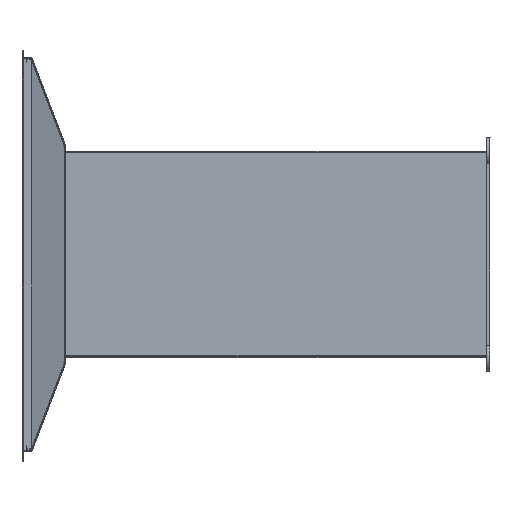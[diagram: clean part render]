
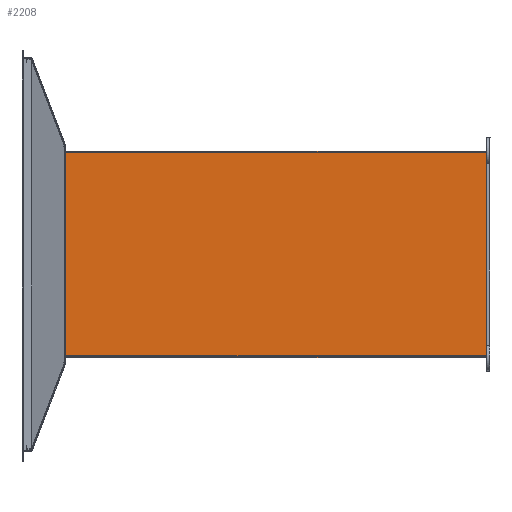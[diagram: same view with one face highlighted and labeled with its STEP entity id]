
A CAD part, left-side view. The second image highlights one B-rep face of the part: STEP entity #2208.
In plain terms, the highlighted planar face has unit normal (-1, 0, 0).
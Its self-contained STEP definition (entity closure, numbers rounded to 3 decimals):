
#178 = B_SPLINE_CURVE_WITH_KNOTS ( 'NONE', 3,
 ( #11979, #5204, #9008, #7020, #11005, #7083 ),
 .UNSPECIFIED., .F., .F.,
 ( 4, 2, 4 ),
 ( 0., 0.001, 0.003 ),
 .UNSPECIFIED. ) ;
#389 = VECTOR ( 'NONE', #6831, 1000. ) ;
#413 = ORIENTED_EDGE ( 'NONE', *, *, #9740, .F. ) ;
#476 = LINE ( 'NONE', #3443, #6617 ) ;
#731 = CARTESIAN_POINT ( 'NONE',  ( -449., 14., 167.5 ) ) ;
#832 = VERTEX_POINT ( 'NONE', #8082 ) ;
#891 = AXIS2_PLACEMENT_3D ( 'NONE', #1579, #5700, #9624 ) ;
#921 = CARTESIAN_POINT ( 'NONE',  ( -449., 11.5, 152.386 ) ) ;
#1021 = CARTESIAN_POINT ( 'NONE',  ( -449., 11.5, 0. ) ) ;
#1074 = EDGE_CURVE ( 'NONE', #11111, #11092, #3364, .T. ) ;
#1451 = CARTESIAN_POINT ( 'NONE',  ( -449., 12.75, 170. ) ) ;
#1500 = DIRECTION ( 'NONE',  ( 0., 0., -1. ) ) ;
#1579 = CARTESIAN_POINT ( 'NONE',  ( -449., -1.3, 0. ) ) ;
#1629 = EDGE_LOOP ( 'NONE', ( #5316, #413, #2324, #9046, #5806, #8990, #1734, #3246, #5178, #6841 ) ) ;
#1636 = VECTOR ( 'NONE', #10024, 1000. ) ;
#1734 = ORIENTED_EDGE ( 'NONE', *, *, #10499, .F. ) ;
#1764 = PLANE ( 'NONE',  #891 ) ;
#1796 = B_SPLINE_CURVE_WITH_KNOTS ( 'NONE', 3,
 ( #731, #4661, #12531, #3698, #5945, #6982 ),
 .UNSPECIFIED., .F., .F.,
 ( 4, 2, 4 ),
 ( 0., 0.001, 0.003 ),
 .UNSPECIFIED. ) ;
#1980 = CARTESIAN_POINT ( 'NONE',  ( -449., 12.75, -170. ) ) ;
#2113 = LINE ( 'NONE', #9780, #389 ) ;
#2163 = LINE ( 'NONE', #6102, #1636 ) ;
#2208 = ADVANCED_FACE ( 'NONE', ( #10593 ), #1764, .F. ) ;
#2324 = ORIENTED_EDGE ( 'NONE', *, *, #2738, .F. ) ;
#2738 = EDGE_CURVE ( 'NONE', #9263, #6857, #178, .T. ) ;
#3128 = DIRECTION ( 'NONE',  ( 0., 0., -1. ) ) ;
#3246 = ORIENTED_EDGE ( 'NONE', *, *, #12473, .F. ) ;
#3364 = LINE ( 'NONE', #8472, #6576 ) ;
#3443 = CARTESIAN_POINT ( 'NONE',  ( -449., 5.725, 167.5 ) ) ;
#3698 = CARTESIAN_POINT ( 'NONE',  ( -449., 13.072, 169.119 ) ) ;
#4661 = CARTESIAN_POINT ( 'NONE',  ( -449., 13.748, 167.895 ) ) ;
#4887 = EDGE_CURVE ( 'NONE', #10913, #10912, #1796, .T. ) ;
#4954 = DIRECTION ( 'NONE',  ( 0., 0., -1. ) ) ;
#5106 = VERTEX_POINT ( 'NONE', #10968 ) ;
#5178 = ORIENTED_EDGE ( 'NONE', *, *, #4887, .T. ) ;
#5193 = CARTESIAN_POINT ( 'NONE',  ( -449., 11.5, 0. ) ) ;
#5204 = CARTESIAN_POINT ( 'NONE',  ( -449., 13.748, -167.895 ) ) ;
#5316 = ORIENTED_EDGE ( 'NONE', *, *, #12312, .F. ) ;
#5385 = CARTESIAN_POINT ( 'NONE',  ( -449., 14., 167.5 ) ) ;
#5641 = LINE ( 'NONE', #9569, #5963 ) ;
#5700 = DIRECTION ( 'NONE',  ( 1., 0., 0. ) ) ;
#5755 = CARTESIAN_POINT ( 'NONE',  ( -449., 11.5, -167.5 ) ) ;
#5806 = ORIENTED_EDGE ( 'NONE', *, *, #1074, .F. ) ;
#5945 = CARTESIAN_POINT ( 'NONE',  ( -449., 12.893, 169.551 ) ) ;
#5963 = VECTOR ( 'NONE', #9628, 1000. ) ;
#6049 = LINE ( 'NONE', #1021, #10483 ) ;
#6098 = LINE ( 'NONE', #5193, #10322 ) ;
#6102 = CARTESIAN_POINT ( 'NONE',  ( -449., 5.1, -167.5 ) ) ;
#6229 = LINE ( 'NONE', #8155, #6810 ) ;
#6576 = VECTOR ( 'NONE', #1500, 1000. ) ;
#6617 = VECTOR ( 'NONE', #7389, 1000. ) ;
#6810 = VECTOR ( 'NONE', #9057, 1000. ) ;
#6831 = DIRECTION ( 'NONE',  ( 0., -1., 0. ) ) ;
#6841 = ORIENTED_EDGE ( 'NONE', *, *, #10429, .F. ) ;
#6857 = VERTEX_POINT ( 'NONE', #1980 ) ;
#6982 = CARTESIAN_POINT ( 'NONE',  ( -449., 12.75, 170. ) ) ;
#7020 = CARTESIAN_POINT ( 'NONE',  ( -449., 13.072, -169.119 ) ) ;
#7083 = CARTESIAN_POINT ( 'NONE',  ( -449., 12.75, -170. ) ) ;
#7306 = CARTESIAN_POINT ( 'NONE',  ( -449., 14., -167.5 ) ) ;
#7389 = DIRECTION ( 'NONE',  ( 0., -1., 0. ) ) ;
#7426 = EDGE_CURVE ( 'NONE', #9263, #11092, #2163, .T. ) ;
#8082 = CARTESIAN_POINT ( 'NONE',  ( -449., 705.75, 170. ) ) ;
#8155 = CARTESIAN_POINT ( 'NONE',  ( -449., 705.75, 0. ) ) ;
#8472 = CARTESIAN_POINT ( 'NONE',  ( -449., 11.5, 0. ) ) ;
#8990 = ORIENTED_EDGE ( 'NONE', *, *, #12754, .F. ) ;
#9008 = CARTESIAN_POINT ( 'NONE',  ( -449., 13.499, -168.291 ) ) ;
#9036 = CARTESIAN_POINT ( 'NONE',  ( -449., 11.5, -152.386 ) ) ;
#9046 = ORIENTED_EDGE ( 'NONE', *, *, #7426, .T. ) ;
#9057 = DIRECTION ( 'NONE',  ( 0., 0., 1. ) ) ;
#9263 = VERTEX_POINT ( 'NONE', #7306 ) ;
#9569 = CARTESIAN_POINT ( 'NONE',  ( -449., 179.475, -170. ) ) ;
#9624 = DIRECTION ( 'NONE',  ( 0., 1., 0. ) ) ;
#9628 = DIRECTION ( 'NONE',  ( 0., 1., 0. ) ) ;
#9669 = VERTEX_POINT ( 'NONE', #12478 ) ;
#9740 = EDGE_CURVE ( 'NONE', #6857, #5106, #5641, .T. ) ;
#9780 = CARTESIAN_POINT ( 'NONE',  ( -449., 179.475, 170. ) ) ;
#10024 = DIRECTION ( 'NONE',  ( 0., -1., 0. ) ) ;
#10322 = VECTOR ( 'NONE', #3128, 1000. ) ;
#10429 = EDGE_CURVE ( 'NONE', #832, #10912, #2113, .T. ) ;
#10483 = VECTOR ( 'NONE', #4954, 1000. ) ;
#10499 = EDGE_CURVE ( 'NONE', #9669, #12229, #6049, .T. ) ;
#10593 = FACE_OUTER_BOUND ( 'NONE', #1629, .T. ) ;
#10912 = VERTEX_POINT ( 'NONE', #1451 ) ;
#10913 = VERTEX_POINT ( 'NONE', #5385 ) ;
#10968 = CARTESIAN_POINT ( 'NONE',  ( -449., 705.75, -170. ) ) ;
#11005 = CARTESIAN_POINT ( 'NONE',  ( -449., 12.893, -169.551 ) ) ;
#11092 = VERTEX_POINT ( 'NONE', #5755 ) ;
#11111 = VERTEX_POINT ( 'NONE', #9036 ) ;
#11979 = CARTESIAN_POINT ( 'NONE',  ( -449., 14., -167.5 ) ) ;
#12229 = VERTEX_POINT ( 'NONE', #921 ) ;
#12312 = EDGE_CURVE ( 'NONE', #5106, #832, #6229, .T. ) ;
#12473 = EDGE_CURVE ( 'NONE', #10913, #9669, #476, .T. ) ;
#12478 = CARTESIAN_POINT ( 'NONE',  ( -449., 11.5, 167.5 ) ) ;
#12531 = CARTESIAN_POINT ( 'NONE',  ( -449., 13.499, 168.291 ) ) ;
#12754 = EDGE_CURVE ( 'NONE', #12229, #11111, #6098, .T. ) ;
